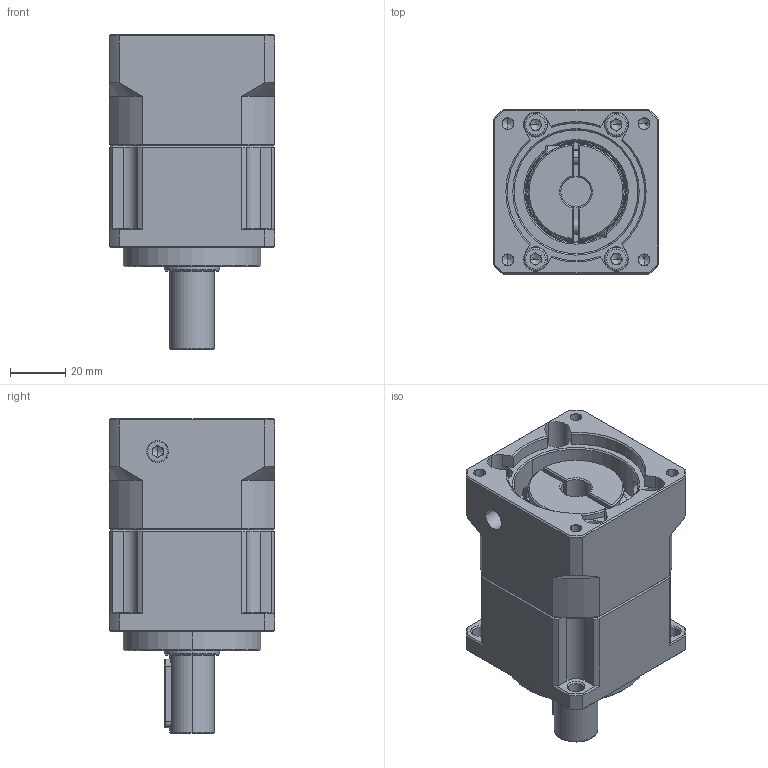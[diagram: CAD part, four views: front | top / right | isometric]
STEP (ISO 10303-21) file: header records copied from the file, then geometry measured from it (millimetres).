
FILE_DESCRIPTION (( 'STEP AP214' ), '1' );
FILE_NAME ('ZPB060-D16-L1-P1-11-50-70-M5.step', '2024-04-23T16:09:19', ( 'Windows 蚚誧' ), ( 'Organization' ), 'SwSTEP 2.0', 'SolidWorks 2016', '' );
FILE_SCHEMA (( 'AUTOMOTIVE_DESIGN' ));
Length unit declared in the file: millimetre
Products named in the file (1): ZPB060-D16-L1-P1-11-50-70-M5
Bounding box: 60 x 60 x 114.5 mm (x, y, z)
Volume: 234430 mm3; surface area: 65795.2 mm2
Topology: 13 solids, 14 shells, 1919 faces, 5465 edges, 3552 vertices
Faces by surface type: plane 1005, bspline 373, cylinder 255, cone 148, torus 92, sphere 46
Entity records: 102336 total; most frequent: CARTESIAN_POINT 34699, ORIENTED_EDGE 10624, DIRECTION 8054, EDGE_CURVE 5312, VERTEX_POINT 3483, VECTOR 3234, LINE 3234, AXIS2_PLACEMENT_3D 2410
